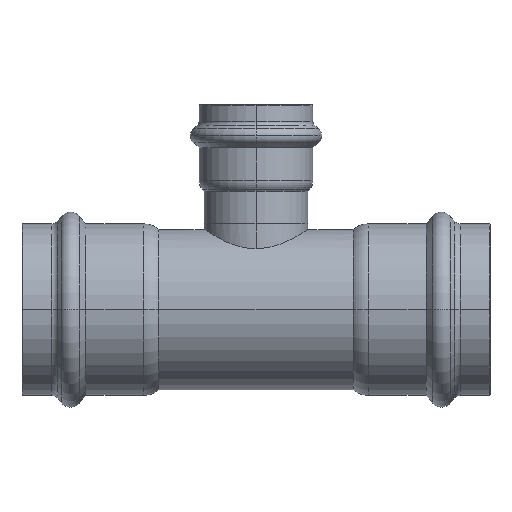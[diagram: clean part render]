
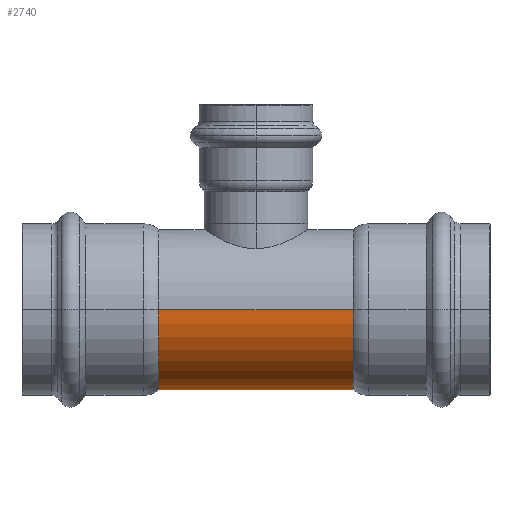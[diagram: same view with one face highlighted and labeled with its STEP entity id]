
A CAD part, left-side view. The second image highlights one B-rep face of the part: STEP entity #2740.
In plain terms, the highlighted cylindrical face has radius 27 mm (diameter 54 mm), a partial arc.
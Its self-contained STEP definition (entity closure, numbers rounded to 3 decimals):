
#2190=CARTESIAN_POINT('',(58.006,36.962,0.));
#2200=VERTEX_POINT('',#2190);
#2290=CARTESIAN_POINT('',(4.006,36.962,0.));
#2300=VERTEX_POINT('',#2290);
#2330=CARTESIAN_POINT('',(31.006,36.962,0.));
#2340=DIRECTION('',(0.,1.,0.));
#2350=DIRECTION('',(-1.,0.,0.));
#2360=AXIS2_PLACEMENT_3D('',#2330,#2340,#2350);
#2370=CIRCLE('',#2360,27.);
#2380=EDGE_CURVE('',#2200,#2300,#2370,.T.);
#2430=CARTESIAN_POINT('',(31.006,4.162,0.));
#2440=DIRECTION('',(0.,1.,0.));
#2450=DIRECTION('',(1.,0.,0.));
#2460=AXIS2_PLACEMENT_3D('',#2430,#2440,#2450);
#2470=CYLINDRICAL_SURFACE('',#2460,27.);
#2480=CARTESIAN_POINT('',(58.006,4.162,0.));
#2490=DIRECTION('',(0.,1.,0.));
#2500=VECTOR('',#2490,1.);
#2510=LINE('',#2480,#2500);
#2520=CARTESIAN_POINT('',(58.006,-28.638,0.));
#2530=VERTEX_POINT('',#2520);
#2540=EDGE_CURVE('',#2530,#2200,#2510,.T.);
#2550=ORIENTED_EDGE('',*,*,#2540,.F.);
#2560=ORIENTED_EDGE('',*,*,#2380,.F.);
#2570=CARTESIAN_POINT('',(4.006,4.162,
0.));
#2580=DIRECTION('',(0.,1.,0.));
#2590=VECTOR('',#2580,1.);
#2600=LINE('',#2570,#2590);
#2610=CARTESIAN_POINT('',(4.006,-28.638,0.));
#2620=VERTEX_POINT('',#2610);
#2630=EDGE_CURVE('',#2620,#2300,#2600,.T.);
#2640=ORIENTED_EDGE('',*,*,#2630,.T.);
#2650=CARTESIAN_POINT('',(31.006,-28.638,0.));
#2660=DIRECTION('',(0.,1.,0.));
#2670=DIRECTION('',(-1.,0.,0.));
#2680=AXIS2_PLACEMENT_3D('',#2650,#2660,#2670);
#2690=CIRCLE('',#2680,27.);
#2700=EDGE_CURVE('',#2530,#2620,#2690,.T.);
#2710=ORIENTED_EDGE('',*,*,#2700,.T.);
#2720=EDGE_LOOP('',(#2710,#2640,#2560,#2550));
#2730=FACE_OUTER_BOUND('',#2720,.T.);
#2740=ADVANCED_FACE('',(#2730),#2470,.T.);
